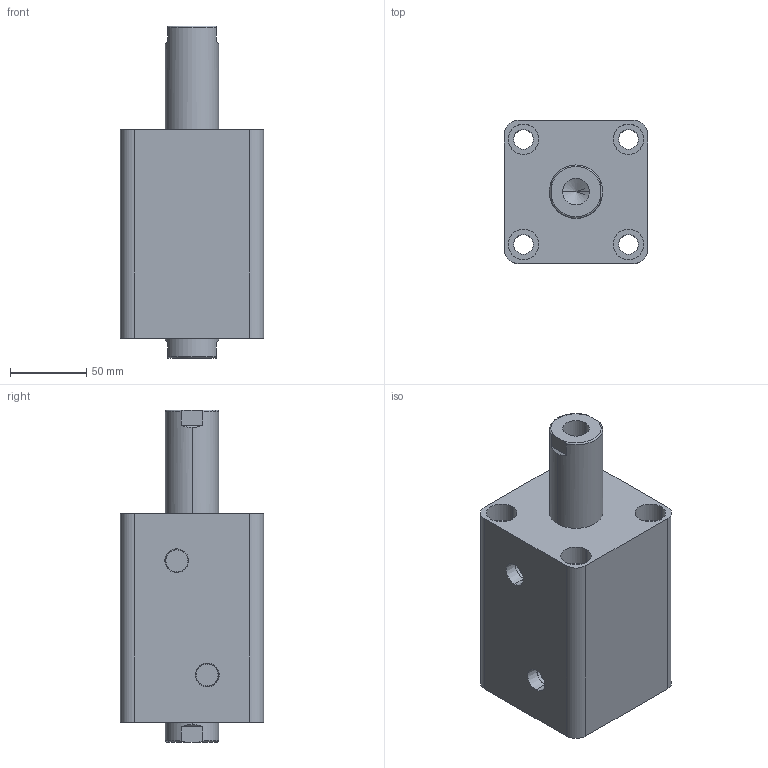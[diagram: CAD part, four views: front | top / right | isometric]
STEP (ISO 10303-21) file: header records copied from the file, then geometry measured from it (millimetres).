
FILE_DESCRIPTION (( 'STEP AP203' ), '1' );
FILE_NAME ('HTB-SW63-55N.STEP', '2019-10-07T10:05:57', ( '微软用户' ), ( '微软中国' ), 'SwSTEP 2.0', 'SolidWorks 2012', '' );
FILE_SCHEMA (( 'CONFIG_CONTROL_DESIGN' ));
Length unit declared in the file: millimetre
Products named in the file (3): HTB-SW63-55N; HTB-SW63-55N活塞杆; HTB-SW63-55掛极
Assembly tree (2 placements, depth 2):
  HTB-SW63-55N
    HTB-SW63-55掛极
    HTB-SW63-55N活塞杆
Bounding box: 94 x 94 x 218 mm (x, y, z)
Volume: 1053993 mm3; surface area: 149392.7 mm2
Topology: 2 solids, 2 shells, 100 faces, 228 edges, 146 vertices
Faces by surface type: cylinder 48, plane 32, torus 12, cone 8
Entity records: 3253 total; most frequent: CARTESIAN_POINT 611, DIRECTION 542, ORIENTED_EDGE 448, AXIS2_PLACEMENT_3D 229, EDGE_CURVE 224, VERTEX_POINT 146, EDGE_LOOP 128, CIRCLE 124
